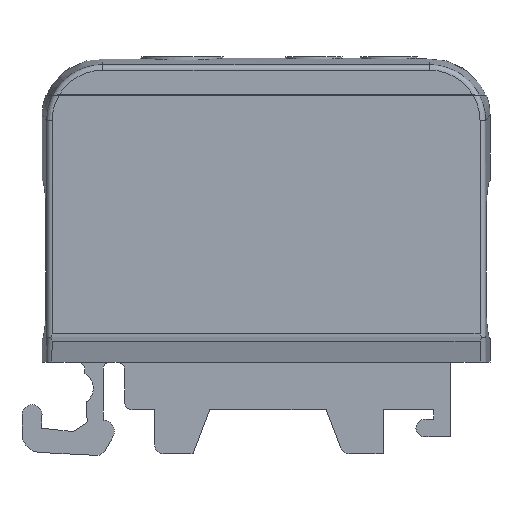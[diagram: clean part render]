
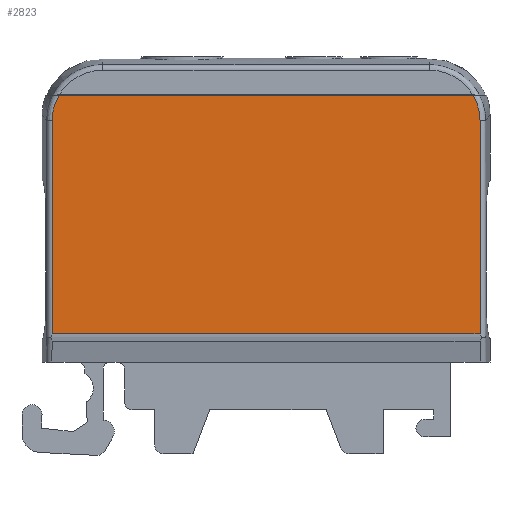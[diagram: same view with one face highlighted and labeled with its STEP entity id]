
A CAD part, front view. The second image highlights one B-rep face of the part: STEP entity #2823.
In plain terms, the highlighted planar face has unit normal (0, -1, 0).
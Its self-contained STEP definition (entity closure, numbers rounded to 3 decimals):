
#42=ELLIPSE('',#3045,5.427,5.4);
#51=ELLIPSE('',#3076,5.427,5.4);
#304=LINE('',#4603,#561);
#329=LINE('',#4840,#586);
#330=LINE('',#4872,#587);
#332=LINE('',#4880,#589);
#561=VECTOR('',#3692,1000.);
#586=VECTOR('',#3779,1000.);
#587=VECTOR('',#3790,1000.);
#589=VECTOR('',#3794,1000.);
#1324=ORIENTED_EDGE('',*,*,#1813,.F.);
#1325=ORIENTED_EDGE('',*,*,#1810,.T.);
#1326=ORIENTED_EDGE('',*,*,#1758,.F.);
#1327=ORIENTED_EDGE('',*,*,#1755,.F.);
#1328=ORIENTED_EDGE('',*,*,#1817,.T.);
#1329=ORIENTED_EDGE('',*,*,#1820,.F.);
#1755=EDGE_CURVE('',#2072,#2073,#304,.F.);
#1758=EDGE_CURVE('',#2073,#2074,#42,.F.);
#1810=EDGE_CURVE('',#2102,#2074,#329,.T.);
#1813=EDGE_CURVE('',#2102,#2104,#51,.F.);
#1817=EDGE_CURVE('',#2072,#2106,#330,.T.);
#1820=EDGE_CURVE('',#2104,#2106,#332,.T.);
#2072=VERTEX_POINT('',#4602);
#2073=VERTEX_POINT('',#4604);
#2074=VERTEX_POINT('',#4622);
#2102=VERTEX_POINT('',#4841);
#2104=VERTEX_POINT('',#4861);
#2106=VERTEX_POINT('',#4870);
#2366=EDGE_LOOP('',(#1324,#1325,#1326,#1327,#1328,#1329));
#2551=FACE_BOUND('',#2366,.T.);
#2672=PLANE('',#3080);
#2823=ADVANCED_FACE('',(#2551),#2672,.F.);
#3045=AXIS2_PLACEMENT_3D('',#4623,#3695,#3696);
#3076=AXIS2_PLACEMENT_3D('',#4860,#3782,#3783);
#3080=AXIS2_PLACEMENT_3D('',#4879,#3792,#3793);
#3692=DIRECTION('',(0.,0.,-1.));
#3695=DIRECTION('',(0.,-1.,0.));
#3696=DIRECTION('',(0.581,0.,-0.814));
#3779=DIRECTION('',(-1.,0.,0.));
#3782=DIRECTION('',(0.,-1.,0.));
#3783=DIRECTION('',(-0.581,0.,-0.814));
#3790=DIRECTION('',(1.,0.,0.));
#3792=DIRECTION('',(0.,1.,0.));
#3793=DIRECTION('',(0.,0.,-1.));
#3794=DIRECTION('',(0.,0.,-1.));
#4602=CARTESIAN_POINT('',(-22.834,-8.65,-10.643));
#4603=CARTESIAN_POINT('',(-22.834,-8.65,-18.75));
#4604=CARTESIAN_POINT('',(-22.834,-8.65,12.104));
#4622=CARTESIAN_POINT('',(-22.085,-8.65,14.85));
#4623=CARTESIAN_POINT('',(-17.425,-8.65,12.079));
#4840=CARTESIAN_POINT('',(-8.461,-8.65,14.85));
#4841=CARTESIAN_POINT('',(22.085,-8.65,14.85));
#4860=CARTESIAN_POINT('',(17.425,-8.65,12.079));
#4861=CARTESIAN_POINT('',(22.834,-8.65,12.104));
#4870=CARTESIAN_POINT('',(22.834,-8.65,-10.643));
#4872=CARTESIAN_POINT('',(22.832,-8.65,-10.643));
#4879=CARTESIAN_POINT('',(-8.461,-8.65,-18.75));
#4880=CARTESIAN_POINT('',(22.834,-8.65,-18.75));
